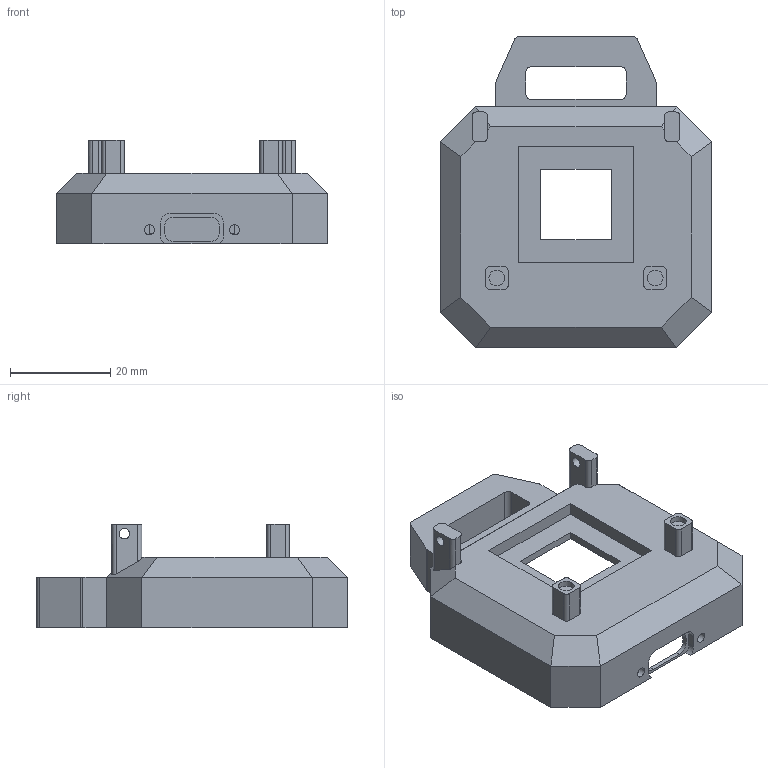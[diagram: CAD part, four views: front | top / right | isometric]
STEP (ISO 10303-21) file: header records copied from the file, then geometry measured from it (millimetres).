
FILE_DESCRIPTION(('Open CASCADE Model'),'2;1');
FILE_NAME('Open CASCADE Shape Model','2026-09-30T20:51:50',('Author'),( 'Open CASCADE'),'Open CASCADE STEP processor 7.9','Open CASCADE 7.9' ,'Unknown');
FILE_SCHEMA(('AUTOMOTIVE_DESIGN { 1 0 10303 214 1 1 1 1 }'));
Length unit declared in the file: millimetre
Products named in the file (1): Open CASCADE STEP translator 7.9 1
Bounding box: 54 x 62 x 20.7 mm (x, y, z)
Volume: 13181.2 mm3; surface area: 12045.5 mm2
Topology: 1 solids, 1 shells, 220 faces, 583 edges, 382 vertices
Faces by surface type: plane 154, cylinder 48, bspline 18
Full cylindrical faces by diameter (mm): 2 x2, 2.1 x2, 3.15 x2, 3.4 x4, 7.2 x2
Entity records: 15625 total; most frequent: CARTESIAN_POINT 4409, DIRECTION 1903, LINE 1247, VECTOR 1247, ORIENTED_EDGE 1166, PCURVE 1166, DEFINITIONAL_REPRESENTATION 1166, EDGE_CURVE 583
